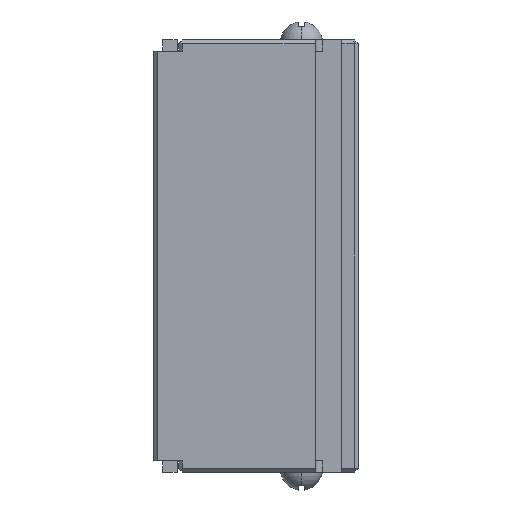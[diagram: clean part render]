
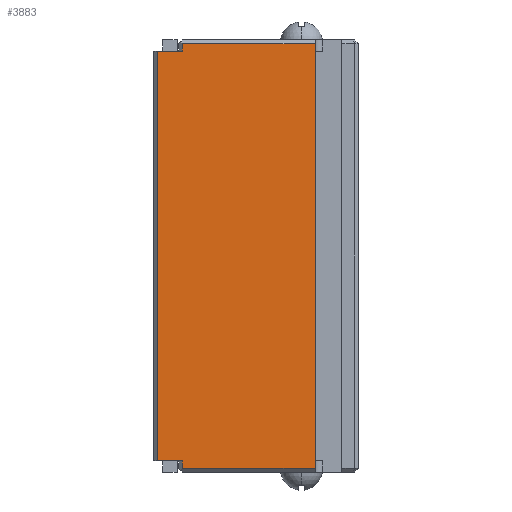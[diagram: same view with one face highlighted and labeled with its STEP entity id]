
A CAD part, left-side view. The second image highlights one B-rep face of the part: STEP entity #3883.
In plain terms, the highlighted planar face has unit normal (-1, 0, 0).
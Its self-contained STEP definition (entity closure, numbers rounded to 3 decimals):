
#1090=DIRECTION('',(0.,0.,1.));
#1091=VECTOR('',#1090,56.);
#1092=CARTESIAN_POINT('',(-14.,-4.3,
-28.));
#1093=LINE('',#1092,#1091);
#1110=DIRECTION('',(0.,-1.,0.));
#1111=VECTOR('',#1110,3.303);
#1112=CARTESIAN_POINT('',(-14.,16.5,27.));
#1113=LINE('',#1112,#1111);
#1114=DIRECTION('',(0.,-1.,0.));
#1115=VECTOR('',#1114,17.497);
#1116=CARTESIAN_POINT('',(-14.,13.197,28.));
#1117=LINE('',#1116,#1115);
#1118=DIRECTION('',(0.,1.,0.));
#1119=VECTOR('',#1118,17.497);
#1120=CARTESIAN_POINT('',(-14.,-4.3,
-28.));
#1121=LINE('',#1120,#1119);
#1122=DIRECTION('',(0.,0.,1.));
#1123=VECTOR('',#1122,54.);
#1124=CARTESIAN_POINT('',(-14.,16.5,-27.));
#1125=LINE('',#1124,#1123);
#1146=DIRECTION('',(0.,0.,-1.));
#1147=VECTOR('',#1146,1.);
#1148=CARTESIAN_POINT('',(-14.,13.197,28.));
#1149=LINE('',#1148,#1147);
#1548=DIRECTION('',(0.,-1.,0.));
#1549=VECTOR('',#1548,3.303);
#1550=CARTESIAN_POINT('',(-14.,16.5,-27.));
#1551=LINE('',#1550,#1549);
#1624=DIRECTION('',(0.,0.,-1.));
#1625=VECTOR('',#1624,1.);
#1626=CARTESIAN_POINT('',(-14.,13.197,-27.));
#1627=LINE('',#1626,#1625);
#1915=CARTESIAN_POINT('',(-14.,16.5,-27.));
#1916=VERTEX_POINT('',#1915);
#1917=CARTESIAN_POINT('',(-14.,13.197,-27.));
#1918=VERTEX_POINT('',#1917);
#2365=CARTESIAN_POINT('',(-14.,-4.3,
-28.));
#2366=CARTESIAN_POINT('',(-14.,-4.3,
28.));
#2367=VERTEX_POINT('',#2365);
#2368=VERTEX_POINT('',#2366);
#2371=CARTESIAN_POINT('',(-14.,16.5,27.));
#2372=CARTESIAN_POINT('',(-14.,13.197,27.));
#2373=VERTEX_POINT('',#2371);
#2374=VERTEX_POINT('',#2372);
#2375=CARTESIAN_POINT('',(-14.,13.197,28.));
#2376=VERTEX_POINT('',#2375);
#2377=CARTESIAN_POINT('',(-14.,13.197,
-28.));
#2378=VERTEX_POINT('',#2377);
#3861=CARTESIAN_POINT('',(-14.,16.5,-27.));
#3862=DIRECTION('',(-1.,0.,0.));
#3863=DIRECTION('',(0.,-1.,0.));
#3864=AXIS2_PLACEMENT_3D('',#3861,#3862,#3863);
#3865=PLANE('',#3864);
#3867=ORIENTED_EDGE('',*,*,#3866,.T.);
#3869=ORIENTED_EDGE('',*,*,#3868,.F.);
#3871=ORIENTED_EDGE('',*,*,#3870,.T.);
#3872=ORIENTED_EDGE('',*,*,#3848,.F.);
#3874=ORIENTED_EDGE('',*,*,#3873,.T.);
#3876=ORIENTED_EDGE('',*,*,#3875,.F.);
#3878=ORIENTED_EDGE('',*,*,#3877,.F.);
#3880=ORIENTED_EDGE('',*,*,#3879,.T.);
#3881=EDGE_LOOP('',(#3867,#3869,#3871,#3872,#3874,#3876,#3878,#3880));
#3882=FACE_OUTER_BOUND('',#3881,.F.);
#3848=EDGE_CURVE('',#2367,#2368,#1093,.T.);
#3866=EDGE_CURVE('',#2373,#2374,#1113,.T.);
#3868=EDGE_CURVE('',#2376,#2374,#1149,.T.);
#3870=EDGE_CURVE('',#2376,#2368,#1117,.T.);
#3873=EDGE_CURVE('',#2367,#2378,#1121,.T.);
#3875=EDGE_CURVE('',#1918,#2378,#1627,.T.);
#3877=EDGE_CURVE('',#1916,#1918,#1551,.T.);
#3879=EDGE_CURVE('',#1916,#2373,#1125,.T.);
#3883=ADVANCED_FACE('',(#3882),#3865,.T.);
